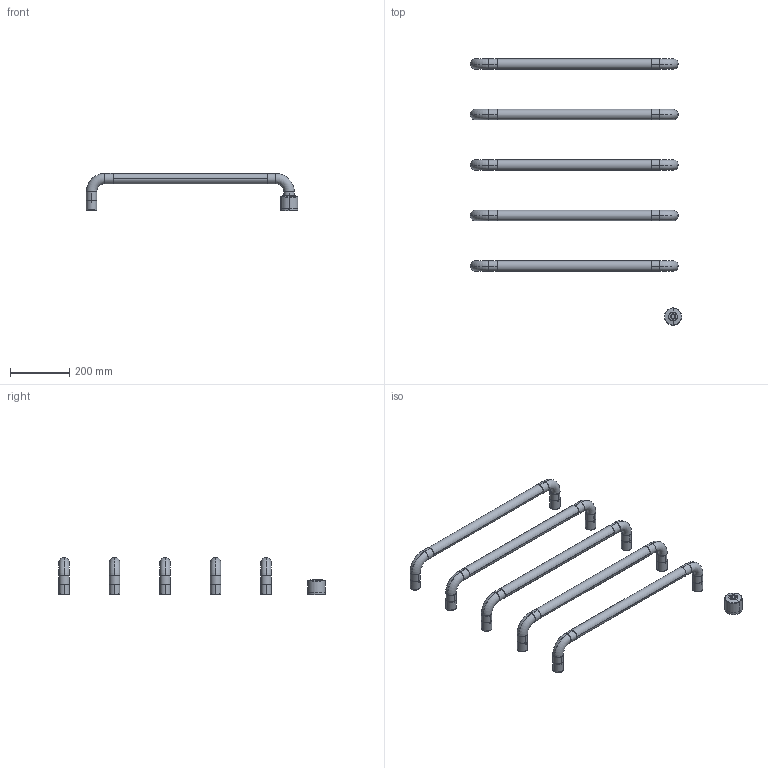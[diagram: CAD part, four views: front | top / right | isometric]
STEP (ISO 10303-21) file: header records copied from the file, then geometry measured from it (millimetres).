
FILE_DESCRIPTION (( 'STEP AP203' ), '1' );
FILE_NAME ('INFTB05700.STEP', '2026-03-03T07:58:30', ( '' ), ( '' ), 'SwSTEP 2.0', 'SolidWorks 2025', '' );
FILE_SCHEMA (( 'CONFIG_CONTROL_DESIGN' ));
Length unit declared in the file: millimetre
Products named in the file (5): INFTB_700; INFFIX_Passante; INFFIX; INFINT; INFTB05700
Assembly tree (16 placements, depth 2):
  INFTB05700
    INFTB_700  x5
    INFFIX_Passante  x5
    INFFIX  x5
    INFINT
Bounding box: 711.5 x 896.5 x 125 mm (x, y, z)
Volume: 734683.6 mm3; surface area: 914967.7 mm2
Topology: 18 solids, 18 shells, 323 faces, 828 edges, 536 vertices
Faces by surface type: cylinder 210, plane 65, torus 42, cone 6
Entity records: 4183 total; most frequent: CARTESIAN_POINT 918, DIRECTION 570, ORIENTED_EDGE 472, AXIS2_PLACEMENT_3D 244, EDGE_CURVE 236, VERTEX_POINT 152, CIRCLE 130, EDGE_LOOP 114
